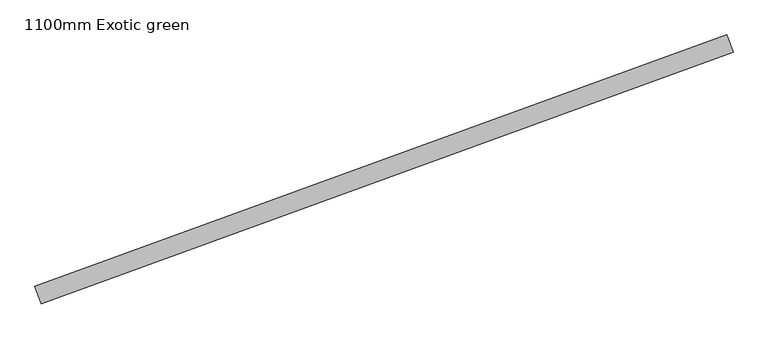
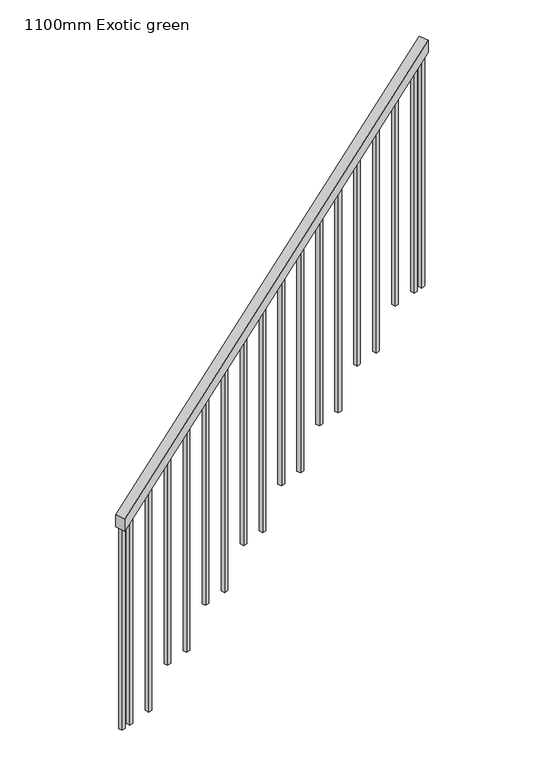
"""IFC4 building model written with IfcOpenShell, lengths in millimetres: railing geometry, 1100mm Exotic green."""

from ifc_helpers import new_model, si_unit, frame, origin, place, context, project, spatial, polyline, outline, extrude, source, transform, mapped, element, save


def railing_1100mm_exotic_green_80a036e3(model_context):
    return source(origin(), model_context, "Body", "SweptSolid", [
        extrude(outline(polyline([(35.1111112, -50.0000001), (0.0, 0.0), (2443.8625571, 0.0), (2478.9736682, -50.0), (35.1111112, -50.0000001)])), frame((28946.9193745, 12468.1659197, 7234.4589916), z_axis=(-0.3420200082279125, 0.9396926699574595, 0.0), x_axis=(0.7690225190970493, 0.2799011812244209, 0.5746822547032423)), (0.0, 0.0, 1.0), 50.0),
        extrude(outline(polyline([(1281.6666667, 20.0), (1281.6666667, 0.0), (92.9777778, 0.0), (107.0222222, 20.0), (1281.6666667, 20.0)])), frame((30771.8405492, 13148.3452758, 8706.1111111), z_axis=(-0.3420200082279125, 0.9396926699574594, 0.0), x_axis=(0.0, 0.0, -1.0)), (0.0, 0.0, 1.0), 20.0),
        extrude(outline(polyline([(1193.8888889, 20.0), (1193.8888889, 0.0), (92.9777777, 0.0), (107.0222222, 20.0), (1193.8888889, 20.0)])), frame((30654.3789654, 13105.5927748, 8618.3333333), z_axis=(-0.3420200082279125, 0.9396926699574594, 0.0), x_axis=(0.0, 0.0, -1.0)), (0.0, 0.0, 1.0), 20.0),
        extrude(outline(polyline([(1281.6666667, 20.0), (1281.6666667, 0.0), (92.9777778, 0.0), (107.0222223, 20.0), (1281.6666667, 20.0)])), frame((30536.9173817, 13062.8402738, 8530.5555556), z_axis=(-0.3420200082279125, 0.9396926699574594, 0.0), x_axis=(0.0, 0.0, -1.0)), (0.0, 0.0, 1.0), 20.0),
        extrude(outline(polyline([(1193.8888889, 20.0), (1193.8888889, 0.0), (92.9777778, 0.0), (107.0222222, 20.0), (1193.8888889, 20.0)])), frame((30419.4557979, 13020.0877727, 8442.7777778), z_axis=(-0.3420200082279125, 0.9396926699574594, 0.0), x_axis=(0.0, 0.0, -1.0)), (0.0, 0.0, 1.0), 20.0),
        extrude(outline(polyline([(1281.6666667, 20.0), (1281.6666667, 0.0), (92.9777778, 0.0), (107.0222222, 20.0), (1281.6666667, 20.0)])), frame((30301.9942142, 12977.3352717, 8355.0), z_axis=(-0.3420200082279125, 0.9396926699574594, 0.0), x_axis=(0.0, 0.0, -1.0)), (0.0, 0.0, 1.0), 20.0),
        extrude(outline(polyline([(1193.8888889, 20.0), (1193.8888889, 0.0), (92.9777778, 0.0), (107.0222222, 20.0), (1193.8888889, 20.0)])), frame((30184.5326304, 12934.5827707, 8267.2222222), z_axis=(-0.3420200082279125, 0.9396926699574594, 0.0), x_axis=(0.0, 0.0, -1.0)), (0.0, 0.0, 1.0), 20.0),
        extrude(outline(polyline([(1281.6666666, 20.0), (1281.6666666, 0.0), (92.9777777, 0.0), (107.0222222, 20.0), (1281.6666666, 20.0)])), frame((30067.0710467, 12891.8302696, 8179.4444444), z_axis=(-0.3420200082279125, 0.9396926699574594, 0.0), x_axis=(0.0, 0.0, -1.0)), (0.0, 0.0, 1.0), 20.0),
        extrude(outline(polyline([(1193.8888889, 20.0), (1193.8888889, 0.0), (92.9777778, 0.0), (107.0222223, 20.0), (1193.8888889, 20.0)])), frame((29949.6094629, 12849.0777686, 8091.6666667), z_axis=(-0.3420200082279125, 0.9396926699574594, 0.0), x_axis=(0.0, 0.0, -1.0)), (0.0, 0.0, 1.0), 20.0),
        extrude(outline(polyline([(1281.6666667, 20.0), (1281.6666667, 0.0), (92.9777778, 0.0), (107.0222222, 20.0), (1281.6666667, 20.0)])), frame((29832.1478792, 12806.3252676, 8003.8888889), z_axis=(-0.3420200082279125, 0.9396926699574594, 0.0), x_axis=(0.0, 0.0, -1.0)), (0.0, 0.0, 1.0), 20.0),
        extrude(outline(polyline([(1193.8888889, 20.0), (1193.8888889, 0.0), (92.9777778, 0.0), (107.0222222, 20.0), (1193.8888889, 20.0)])), frame((29714.6862955, 12763.5727666, 7916.1111111), z_axis=(-0.3420200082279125, 0.9396926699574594, 0.0), x_axis=(0.0, 0.0, -1.0)), (0.0, 0.0, 1.0), 20.0),
        extrude(outline(polyline([(1281.6666666, 20.0), (1281.6666666, 0.0), (92.9777777, 0.0), (107.0222222, 20.0), (1281.6666666, 20.0)])), frame((29597.2247117, 12720.8202655, 7828.3333333), z_axis=(-0.3420200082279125, 0.9396926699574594, 0.0), x_axis=(0.0, 0.0, -1.0)), (0.0, 0.0, 1.0), 20.0),
        extrude(outline(polyline([(1193.8888889, 20.0), (1193.8888889, 0.0), (92.9777778, 0.0), (107.0222223, 20.0), (1193.8888889, 20.0)])), frame((29479.763128, 12678.0677645, 7740.5555556), z_axis=(-0.3420200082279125, 0.9396926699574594, 0.0), x_axis=(0.0, 0.0, -1.0)), (0.0, 0.0, 1.0), 20.0),
        extrude(outline(polyline([(1281.6666667, 20.0), (1281.6666667, 0.0), (92.9777778, 0.0), (107.0222222, 20.0), (1281.6666667, 20.0)])), frame((29362.3015442, 12635.3152635, 7652.7777778), z_axis=(-0.3420200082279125, 0.9396926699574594, 0.0), x_axis=(0.0, 0.0, -1.0)), (0.0, 0.0, 1.0), 20.0),
        extrude(outline(polyline([(1193.8888889, 20.0), (1193.8888889, 0.0), (92.9777778, 0.0), (107.0222222, 20.0), (1193.8888889, 20.0)])), frame((29244.8399605, 12592.5627624, 7565.0), z_axis=(-0.3420200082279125, 0.9396926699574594, 0.0), x_axis=(0.0, 0.0, -1.0)), (0.0, 0.0, 1.0), 20.0),
        extrude(outline(polyline([(1281.6666666, 20.0), (1281.6666666, 0.0), (92.9777778, 0.0), (107.0222222, 20.0), (1281.6666666, 20.0)])), frame((29127.3783767, 12549.8102614, 7477.2222222), z_axis=(-0.3420200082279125, 0.9396926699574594, 0.0), x_axis=(0.0, 0.0, -1.0)), (0.0, 0.0, 1.0), 20.0),
        extrude(outline(polyline([(1193.8888888, 20.0), (1193.8888888, 0.0), (92.9777777, 0.0), (107.0222222, 20.0), (1193.8888888, 20.0)])), frame((29009.916793, 12507.0577604, 7389.4444444), z_axis=(-0.3420200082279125, 0.9396926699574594, 0.0), x_axis=(0.0, 0.0, -1.0)), (0.0, 0.0, 1.0), 20.0),
        extrude(outline(polyline([(1316.7777778, 20.0), (1316.7777778, 0.0), (92.9777778, 0.0), (107.0222222, 20.0), (1316.7777778, 20.0)])), frame((30818.8251827, 13165.4462762, 8741.2222222), z_axis=(-0.3420200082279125, 0.9396926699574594, 0.0), x_axis=(0.0, 0.0, -1.0)), (0.0, 0.0, 1.0), 20.0),
        extrude(outline(polyline([(1158.7777777, 20.0), (1158.7777777, 0.0), (92.9777777, 0.0), (107.0222222, 20.0), (1158.7777777, 20.0)])), frame((28962.9321595, 12489.95676, 7354.3333333), z_axis=(-0.3420200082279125, 0.9396926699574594, 0.0), x_axis=(0.0, 0.0, -1.0)), (0.0, 0.0, 1.0), 20.0),
    ])


if __name__ == "__main__":
    model = new_model("IFC4")
    model_context = context("Model", 3, world=origin())
    ifc_project = project(units=[si_unit("LENGTHUNIT", "METRE", prefix="MILLI")], contexts=[model_context])
    site = spatial("IfcSite", under=ifc_project)
    building = spatial("IfcBuilding", under=site)
    placement = place(None, origin())
    railing_1100mm_exotic_green_shape = railing_1100mm_exotic_green_80a036e3(model_context)
    element("IfcRailing", 1, ObjectType="1100mm Exotic green", at=placement, inside=building, context=model_context, shape_type="MappedRepresentation", body=[
        mapped(railing_1100mm_exotic_green_shape, transform((0.0, 0.0, 0.0), x_axis=(1.0, 0.0, 0.0), y_axis=(0.0, 1.0, 0.0), z_axis=(0.0, 0.0, 1.0))),
    ])
    save(model, "model.ifc")
